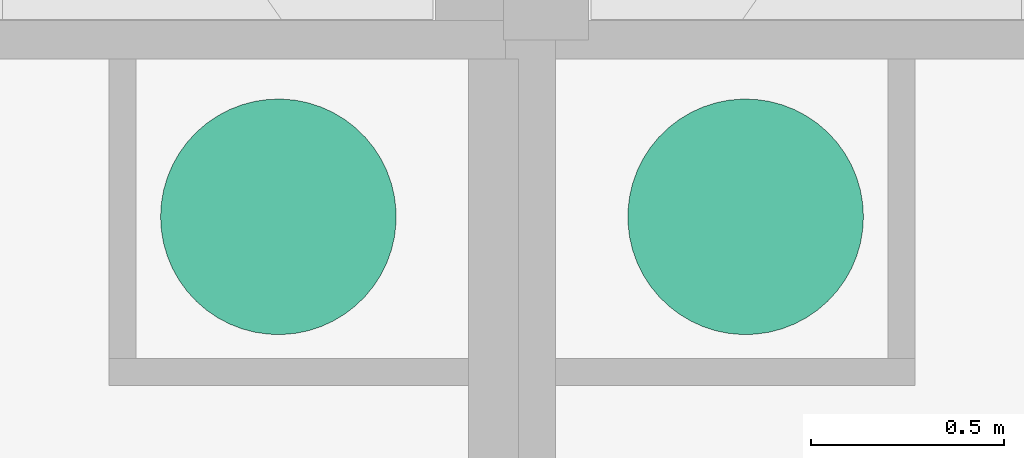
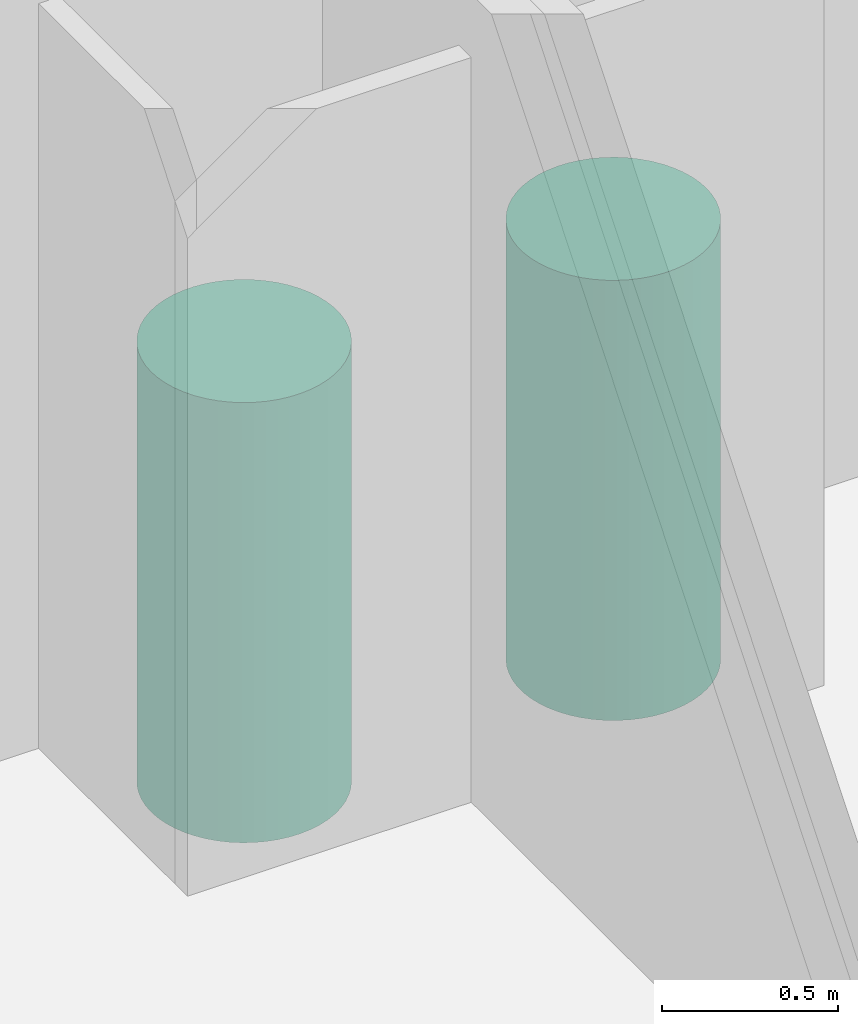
# One storey, part 31 of 33: 2 flow terminals.
"""IFC2X3 building model written with IfcOpenShell, lengths in metres."""

from ifc_helpers import new_model, entity, si_unit, converted_unit, derived_unit, direction, frame, frame_2d, origin, place, context, subcontext, project, spatial, circle, extrude, source, transform, mapped, element, save


model = new_model("IFC2X3")

# Units and contexts
model_context = context("Model", 3, precision=1e-05, world=origin(), true_north=direction((6.12303176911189e-17, 1.0)))
context_of_model = context(None, 3, precision=1e-05, world=origin(), true_north=direction((6.12303176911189e-17, 1.0)))
body_context = subcontext(model_context, "Body", "Model", "MODEL_VIEW")
ifc_project = project(units=[si_unit("LENGTHUNIT", "METRE"), si_unit("AREAUNIT", "SQUARE_METRE"), si_unit("VOLUMEUNIT", "CUBIC_METRE"), converted_unit("PLANEANGLEUNIT", "DEGREE", entity("IfcRatioMeasure", 0.0174532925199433), si_unit("PLANEANGLEUNIT", "RADIAN"), dimensions=[0, 0, 0, 0, 0, 0, 0]), si_unit("MASSUNIT", "GRAM", prefix="KILO"), si_unit("TIMEUNIT", "SECOND"), si_unit("FREQUENCYUNIT", "HERTZ"), si_unit("THERMODYNAMICTEMPERATUREUNIT", "DEGREE_CELSIUS"), derived_unit("THERMALTRANSMITTANCEUNIT", [(si_unit("MASSUNIT", "GRAM", prefix="KILO"), 1), (si_unit("THERMODYNAMICTEMPERATUREUNIT", "KELVIN"), -1), (si_unit("TIMEUNIT", "SECOND"), -3)]), derived_unit("VOLUMETRICFLOWRATEUNIT", [(si_unit("LENGTHUNIT", "METRE"), 3), (si_unit("TIMEUNIT", "SECOND"), -1)]), si_unit("ELECTRICCURRENTUNIT", "AMPERE"), si_unit("ELECTRICVOLTAGEUNIT", "VOLT"), si_unit("POWERUNIT", "WATT"), si_unit("FORCEUNIT", "NEWTON", prefix="KILO"), si_unit("ILLUMINANCEUNIT", "LUX"), si_unit("LUMINOUSFLUXUNIT", "LUMEN"), si_unit("LUMINOUSINTENSITYUNIT", "CANDELA"), si_unit("PRESSUREUNIT", "PASCAL")], contexts=[model_context, context_of_model])

# Site, building, storey
site_placement = place(None, origin())
site = spatial("IfcSite", under=ifc_project, at=site_placement, Name="Surface", CompositionType="ELEMENT")
building_placement = place(site_placement, origin())
building = spatial("IfcBuilding", under=site, at=building_placement, CompositionType="ELEMENT")
storey_placement = place(building_placement, origin())
storey = spatial("IfcBuildingStorey", under=building, at=storey_placement, Name="Plan des fondations  Maisons 1 et 2", CompositionType="ELEMENT", Elevation=0.0)

# Flow terminals
shared_shape_1 = source(origin(), body_context, "Body", "SweptSolid", [
    extrude(circle(Radius=0.305, at=frame_2d((2.0605001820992e-17, 4.92716529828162e-16), x_axis=(1.0, 0.0))), origin(), (0.0, 0.0, 1.0), 1.525),
])
flow_terminal_1_placement = place(storey_placement, frame((84.3337756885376, 86.0892469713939, 0.0)))
element("IfcFlowTerminal", 1, at=flow_terminal_1_placement, inside=storey, Name="Chauffe eau:Chauffe eau", ObjectType="Chauffe eau", context=body_context, shape_type="MappedRepresentation", body=[
    mapped(shared_shape_1, transform((0.0, 0.0, 0.0), scale=1.0)),
])
shared_shape_2 = source(origin(), body_context, "Body", "SweptSolid", [
    extrude(circle(Radius=0.305, at=frame_2d((-9.40594473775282e-18, 1.37312338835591e-15), x_axis=(1.0, 0.0))), origin(), (0.0, 0.0, 1.0), 1.525),
])
flow_terminal_2_placement = place(storey_placement, frame((83.1240290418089, 86.0892469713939, 0.0), z_axis=(0.0, 0.0, 1.0), x_axis=(-1.0, 0.0, 0.0)))
element("IfcFlowTerminal", 2, at=flow_terminal_2_placement, inside=storey, Name="Chauffe eau:Chauffe eau", ObjectType="Chauffe eau", context=body_context, shape_type="MappedRepresentation", body=[
    mapped(shared_shape_2, transform((0.0, 0.0, 0.0), scale=1.0)),
])

save(model, "model.ifc")
